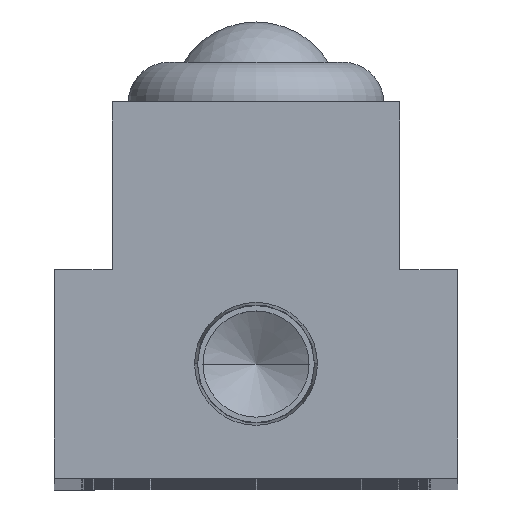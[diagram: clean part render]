
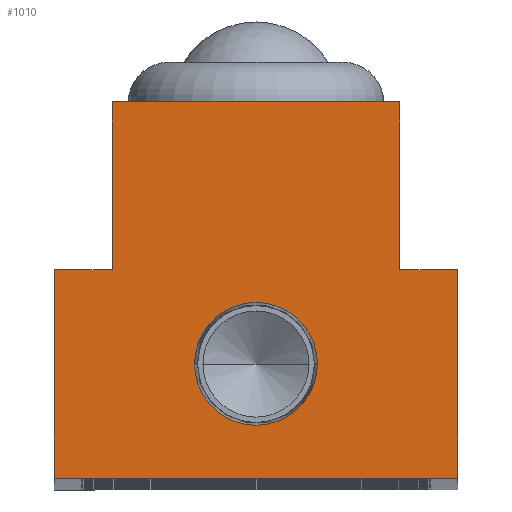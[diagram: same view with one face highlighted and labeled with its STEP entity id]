
A CAD part, top view. The second image highlights one B-rep face of the part: STEP entity #1010.
In plain terms, the highlighted planar face has unit normal (0, 0, 1).
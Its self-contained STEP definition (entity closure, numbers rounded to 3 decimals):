
#171 = VERTEX_POINT ( 'NONE', #4874 ) ;
#223 = VERTEX_POINT ( 'NONE', #9314 ) ;
#383 = VERTEX_POINT ( 'NONE', #11829 ) ;
#667 = LINE ( 'NONE', #8953, #3232 ) ;
#719 = LINE ( 'NONE', #4211, #12290 ) ;
#950 = DIRECTION ( 'NONE',  ( 0., 1., 0. ) ) ;
#990 = LINE ( 'NONE', #12879, #12224 ) ;
#1006 = DIRECTION ( 'NONE',  ( 0., 0., 1. ) ) ;
#1010 = ADVANCED_FACE ( 'NONE', ( #2153, #8309 ), #11856, .T. ) ;
#1174 = LINE ( 'NONE', #6719, #2332 ) ;
#1339 = VERTEX_POINT ( 'NONE', #2225 ) ;
#1526 = CIRCLE ( 'NONE', #1939, 4.574 ) ;
#1554 = CARTESIAN_POINT ( 'NONE',  ( 10.7, 15.5, 0. ) ) ;
#1725 = LINE ( 'NONE', #1554, #10098 ) ;
#1820 = DIRECTION ( 'NONE',  ( 0., -1., 0. ) ) ;
#1939 = AXIS2_PLACEMENT_3D ( 'NONE', #12498, #5995, #13585 ) ;
#2153 = FACE_BOUND ( 'NONE', #9468, .T. ) ;
#2225 = CARTESIAN_POINT ( 'NONE',  ( 10.7, 15.5, 0. ) ) ;
#2332 = VECTOR ( 'NONE', #7833, 1000. ) ;
#2438 = VERTEX_POINT ( 'NONE', #9859 ) ;
#2560 = ORIENTED_EDGE ( 'NONE', *, *, #4364, .F. ) ;
#2669 = DIRECTION ( 'NONE',  ( -1., 0., 0. ) ) ;
#3054 = CARTESIAN_POINT ( 'NONE',  ( -10.7, 28., 0. ) ) ;
#3101 = CIRCLE ( 'NONE', #13417, 4.574 ) ;
#3180 = EDGE_CURVE ( 'NONE', #6842, #11962, #719, .T. ) ;
#3207 = DIRECTION ( 'NONE',  ( 0., 0., 1. ) ) ;
#3232 = VECTOR ( 'NONE', #7881, 1000. ) ;
#3559 = ORIENTED_EDGE ( 'NONE', *, *, #3180, .T. ) ;
#3760 = CARTESIAN_POINT ( 'NONE',  ( -10.7, 28., 0. ) ) ;
#3776 = VECTOR ( 'NONE', #10585, 1000. ) ;
#3830 = CARTESIAN_POINT ( 'NONE',  ( -15., 0., 0. ) ) ;
#3981 = EDGE_CURVE ( 'NONE', #223, #2438, #3101, .T. ) ;
#4211 = CARTESIAN_POINT ( 'NONE',  ( 15., 0., 0. ) ) ;
#4364 = EDGE_CURVE ( 'NONE', #2438, #223, #1526, .T. ) ;
#4438 = VERTEX_POINT ( 'NONE', #3054 ) ;
#4874 = CARTESIAN_POINT ( 'NONE',  ( -10.7, 15.5, 0. ) ) ;
#5470 = ORIENTED_EDGE ( 'NONE', *, *, #8004, .T. ) ;
#5634 = ORIENTED_EDGE ( 'NONE', *, *, #10506, .T. ) ;
#5802 = ORIENTED_EDGE ( 'NONE', *, *, #9219, .T. ) ;
#5995 = DIRECTION ( 'NONE',  ( 0., 0., 1. ) ) ;
#6329 = EDGE_CURVE ( 'NONE', #11962, #1339, #1725, .T. ) ;
#6346 = CARTESIAN_POINT ( 'NONE',  ( 15., 15.5, 0. ) ) ;
#6362 = VECTOR ( 'NONE', #1820, 1000. ) ;
#6643 = LINE ( 'NONE', #7308, #3776 ) ;
#6697 = LINE ( 'NONE', #10556, #6362 ) ;
#6719 = CARTESIAN_POINT ( 'NONE',  ( -15., 0., 0. ) ) ;
#6842 = VERTEX_POINT ( 'NONE', #9268 ) ;
#6977 = DIRECTION ( 'NONE',  ( -1., 0., 0. ) ) ;
#7308 = CARTESIAN_POINT ( 'NONE',  ( -10.7, 15.5, 0. ) ) ;
#7583 = EDGE_CURVE ( 'NONE', #171, #383, #6643, .T. ) ;
#7833 = DIRECTION ( 'NONE',  ( 0., -1., 0. ) ) ;
#7881 = DIRECTION ( 'NONE',  ( 1., 0., 0. ) ) ;
#8004 = EDGE_CURVE ( 'NONE', #383, #12736, #1174, .T. ) ;
#8309 = FACE_OUTER_BOUND ( 'NONE', #13830, .T. ) ;
#8633 = DIRECTION ( 'NONE',  ( 1., 0., 0. ) ) ;
#8932 = ORIENTED_EDGE ( 'NONE', *, *, #3981, .F. ) ;
#8953 = CARTESIAN_POINT ( 'NONE',  ( 15., 0., 0. ) ) ;
#9219 = EDGE_CURVE ( 'NONE', #9499, #4438, #13707, .T. ) ;
#9268 = CARTESIAN_POINT ( 'NONE',  ( 15., 0., 0. ) ) ;
#9314 = CARTESIAN_POINT ( 'NONE',  ( 4.574, 8.5, 0. ) ) ;
#9468 = EDGE_LOOP ( 'NONE', ( #8932, #2560 ) ) ;
#9499 = VERTEX_POINT ( 'NONE', #10826 ) ;
#9578 = ORIENTED_EDGE ( 'NONE', *, *, #12153, .T. ) ;
#9700 = ORIENTED_EDGE ( 'NONE', *, *, #7583, .T. ) ;
#9709 = CARTESIAN_POINT ( 'NONE',  ( 0., 8.5, 0. ) ) ;
#9859 = CARTESIAN_POINT ( 'NONE',  ( -4.574, 8.5, 0. ) ) ;
#10098 = VECTOR ( 'NONE', #2669, 1000. ) ;
#10299 = AXIS2_PLACEMENT_3D ( 'NONE', #12935, #1006, #8633 ) ;
#10506 = EDGE_CURVE ( 'NONE', #4438, #171, #6697, .T. ) ;
#10556 = CARTESIAN_POINT ( 'NONE',  ( -10.7, 28., 0. ) ) ;
#10585 = DIRECTION ( 'NONE',  ( -1., 0., 0. ) ) ;
#10814 = DIRECTION ( 'NONE',  ( 1., 0., 0. ) ) ;
#10826 = CARTESIAN_POINT ( 'NONE',  ( 10.7, 28., 0. ) ) ;
#11636 = ORIENTED_EDGE ( 'NONE', *, *, #6329, .T. ) ;
#11803 = DIRECTION ( 'NONE',  ( 0., 1., 0. ) ) ;
#11829 = CARTESIAN_POINT ( 'NONE',  ( -15., 15.5, 0. ) ) ;
#11856 = PLANE ( 'NONE',  #10299 ) ;
#11962 = VERTEX_POINT ( 'NONE', #6346 ) ;
#12153 = EDGE_CURVE ( 'NONE', #12736, #6842, #667, .T. ) ;
#12224 = VECTOR ( 'NONE', #950, 1000. ) ;
#12246 = ORIENTED_EDGE ( 'NONE', *, *, #12487, .T. ) ;
#12290 = VECTOR ( 'NONE', #11803, 1000. ) ;
#12487 = EDGE_CURVE ( 'NONE', #1339, #9499, #990, .T. ) ;
#12498 = CARTESIAN_POINT ( 'NONE',  ( 0., 8.5, 0. ) ) ;
#12736 = VERTEX_POINT ( 'NONE', #3830 ) ;
#12879 = CARTESIAN_POINT ( 'NONE',  ( 10.7, 28., 0. ) ) ;
#12935 = CARTESIAN_POINT ( 'NONE',  ( 0., 0., 0. ) ) ;
#13358 = VECTOR ( 'NONE', #6977, 1000. ) ;
#13417 = AXIS2_PLACEMENT_3D ( 'NONE', #9709, #3207, #10814 ) ;
#13585 = DIRECTION ( 'NONE',  ( 1., 0., 0. ) ) ;
#13707 = LINE ( 'NONE', #3760, #13358 ) ;
#13830 = EDGE_LOOP ( 'NONE', ( #12246, #5802, #5634, #9700, #5470, #9578, #3559, #11636 ) ) ;
